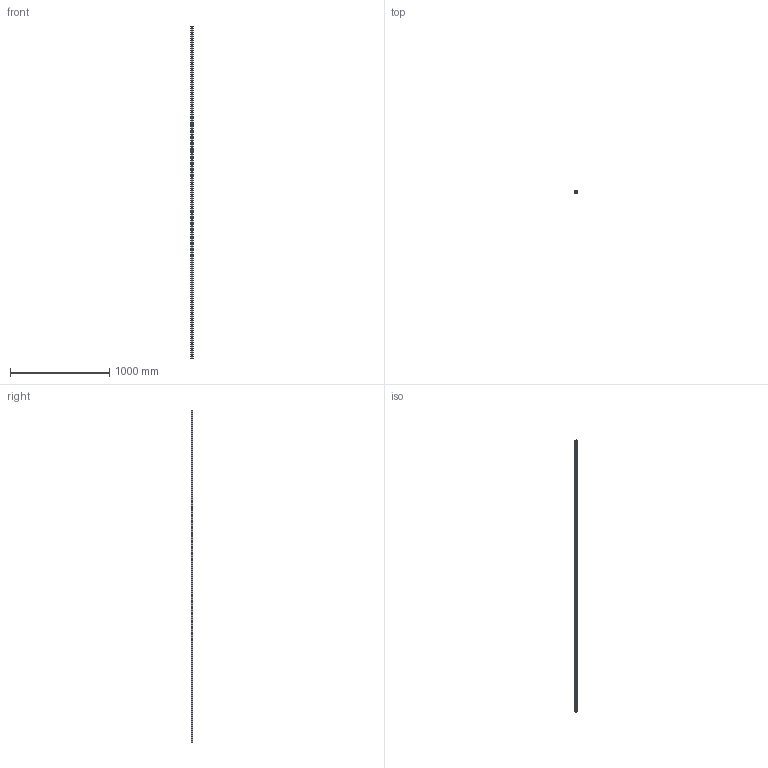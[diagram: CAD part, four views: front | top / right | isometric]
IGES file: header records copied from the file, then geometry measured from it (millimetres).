
Start section: SolidWorks IGES file using analytic representation for surfaces
Global section: file name: C:\Users\IanO\Desktop\L1016_v2\L1016.BL25_v2\L1016.BL25_v2_20160611_IGES\L1016.BL25-3340.igs; native system: SolidWorks 2017; preprocessor: SolidWorks 2017; author: IanO; date: 190612.131502; units: millimetre
Bounding box: 23 x 19.2 x 3340 mm (x, y, z)
Surface area: 315899.9 mm2 (no closed solid volume)
Topology: 0 solids, 0 shells, 306 faces, 8232 edges, 8232 vertices
Faces by surface type: revolution 228, bspline 78
